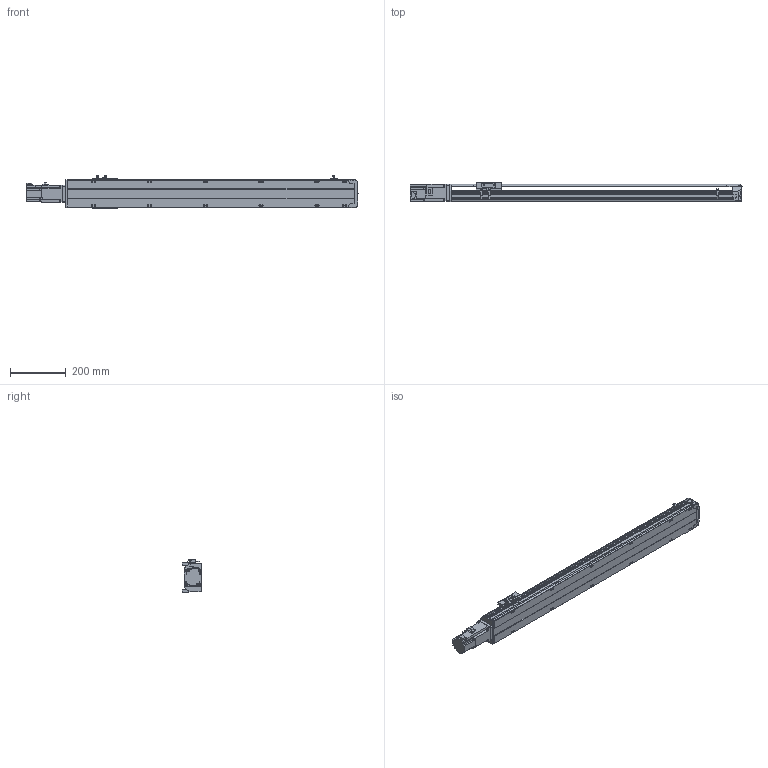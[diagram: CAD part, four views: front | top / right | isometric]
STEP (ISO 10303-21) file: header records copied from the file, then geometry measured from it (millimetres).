
FILE_DESCRIPTION(/* description */ ('STEP AP214'),/* implementation_level */ '2;1');
FILE_NAME(/* name */ 'PSS120-L10-S800-BC-T40-C1-N(0)',/* time_stamp */ '2022-06-02T02:33:32+02:00',/* author */ ('License CC BY-ND 4.0'),/* organization */ ('CADENAS'),/* preprocessor_version */ 'ST-DEVELOPER v18.102',/* originating_system */ 'PARTsolutions',/* authorisation */ ' ');
FILE_SCHEMA (('AUTOMOTIVE_DESIGN {1 0 10303 214 3 1 1}'));
Length unit declared in the file: millimetre
Products named in the file (8): PSS120-L10-S800-BC-T40-C1-N(0); PSS120-S800-BC-N_S; T40-p1; PSS120BC-N_h; PSS120-N_sensor; PSS120-BC-C1-N_sl; PSS120-N_Q; PSS120-S800-BC-C1-N_body
Assembly tree (9 placements, depth 2):
  PSS120-L10-S800-BC-T40-C1-N(0)
    PSS120-S800-BC-N_S
    T40-p1
    PSS120BC-N_h
    PSS120-N_sensor  x3
    PSS120-BC-C1-N_sl
    PSS120-N_Q
    PSS120-S800-BC-C1-N_body
Bounding box: 1188.7 x 70 x 117.7 mm (x, y, z)
Volume: 3795533 mm3; surface area: 679519.9 mm2
Topology: 9 solids, 9 shells, 833 faces, 2224 edges, 1474 vertices
Faces by surface type: plane 559, cylinder 250, cone 24
Full cylindrical faces by diameter (mm): 2.8 x3, 4 x4, 4.134 x16, 4.2 x4, 4.4 x2, 4.5 x4, 4.6 x3, 4.917 x4, 5 x6, 5.5 x19, 7 x2, 8 x8, 8.5 x16, 14 x1, 28 x1, 32 x1, 50 x1
Entity records: 22360 total; most frequent: CARTESIAN_POINT 4038, DIRECTION 3747, ORIENTED_EDGE 3610, EDGE_CURVE 1805, VERTEX_POINT 1262, LINE 1253, VECTOR 1253, AXIS2_PLACEMENT_3D 1247
